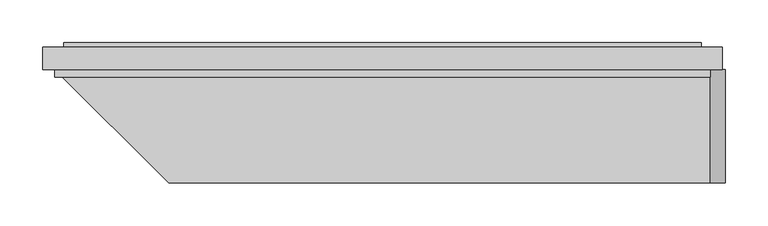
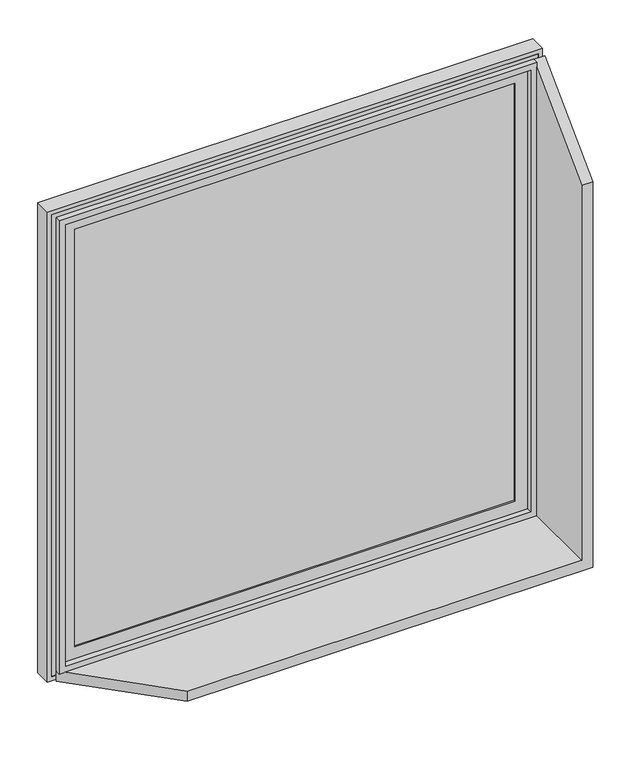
"""IFC4 building model written with IfcOpenShell, lengths in millimetres: plate geometry, SCISSOR PANEL : SCISSOR PANEL."""

from ifc_helpers import new_model, si_unit, frame, origin, place, context, project, spatial, polyline, outline, extrude, faceted_brep, source, transform, mapped, element, save


def plate_9551265c(model_context):
    return source(origin(), model_context, "Body", "SolidModel", [
        faceted_brep([(-381.4048282, 132.5, 17.5), (381.4048282, 132.5, 17.5), (381.4048282, 132.5, 782.5), (398.9048282, 132.5, 782.5), (398.9048282, 132.5, 0.0), (-381.4048282, 132.5, 0.0), (381.4048282, 0.0, 17.5), (381.4048282, 0.0, 650.0), (398.9048282, 0.0, 650.0), (-248.9048282, 0.0, 0.0), (-248.9048282, 0.0, 17.5), (398.9048282, 0.0, 0.0)], [[[0, 1, 2, 3, 4, 5]], [[2, 1, 6, 7]], [[7, 8, 3, 2]], [[9, 10, 0, 5]], [[11, 8, 7, 6, 10, 9]], [[4, 11, 9, 5]], [[11, 4, 3, 8]], [[1, 0, 10, 6]]]),
        extrude(outline(polyline([(-368.4048282, 160.5), (368.4048282, 160.5), (368.4048282, 135.5), (-368.4048282, 135.5), (-368.4048282, 160.5)])), frame((0.0, 0.0, 30.5), z_axis=(0.0, 0.0, 1.0), x_axis=(1.0, 0.0, 0.0)), (0.0, 0.0, 1.0), 739.0),
        faceted_brep([(-351.4048282, 135.5, 752.5), (-351.4048282, 132.5, 752.5), (-351.4048282, 132.5, 47.5), (-351.4048282, 135.5, 47.5), (-368.4048282, 160.5, 769.5), (-368.4048282, 135.5, 769.5), (-368.4048282, 135.5, 30.5), (-368.4048282, 160.5, 30.5), (-351.4048282, 163.5, 752.5), (-351.4048282, 160.5, 752.5), (-351.4048282, 160.5, 47.5), (-351.4048282, 163.5, 47.5), (-371.4048282, 132.5, 772.5), (-371.4048282, 163.5, 772.5), (-371.4048282, 163.5, 27.5), (-371.4048282, 132.5, 27.5), (351.4048282, 132.5, 47.5), (351.4048282, 135.5, 47.5), (368.4048282, 135.5, 30.5), (368.4048282, 160.5, 30.5), (351.4048282, 160.5, 47.5), (351.4048282, 163.5, 47.5), (371.4048282, 163.5, 27.5), (371.4048282, 132.5, 27.5), (351.4048282, 132.5, 752.5), (351.4048282, 135.5, 752.5), (368.4048282, 135.5, 769.5), (368.4048282, 160.5, 769.5), (351.4048282, 160.5, 752.5), (351.4048282, 163.5, 752.5), (371.4048282, 163.5, 772.5), (371.4048282, 132.5, 772.5)], [[[0, 1, 2, 3]], [[4, 5, 6, 7]], [[8, 9, 10, 11]], [[12, 13, 14, 15]], [[3, 2, 16, 17]], [[7, 6, 18, 19]], [[11, 10, 20, 21]], [[15, 14, 22, 23]], [[17, 16, 24, 25]], [[19, 18, 26, 27]], [[21, 20, 28, 29]], [[23, 22, 30, 31]], [[15, 23, 31, 12], [1, 24, 16, 2]], [[25, 24, 1, 0]], [[5, 26, 18, 6], [3, 17, 25, 0]], [[27, 26, 5, 4]], [[7, 19, 27, 4], [9, 28, 20, 10]], [[29, 28, 9, 8]], [[13, 30, 22, 14], [11, 21, 29, 8]], [[31, 30, 13, 12]]]),
        faceted_brep([(-395.4048282, 132.5, 796.5), (-395.4048282, 158.75, 796.5), (-395.4048282, 158.75, 3.5), (-395.4048282, 132.5, 3.5), (-388.4048282, 150.0, 789.5), (-388.4048282, 132.5, 789.5), (-388.4048282, 132.5, 10.5), (-388.4048282, 150.0, 10.5), (-381.4048282, 123.75, 782.5), (-381.4048282, 150.0, 782.5), (-381.4048282, 150.0, 17.5), (-381.4048282, 123.75, 17.5), (-371.4048282, 158.75, 772.5), (-371.4048282, 123.75, 772.5), (-371.4048282, 123.75, 27.5), (-371.4048282, 158.75, 27.5), (395.4048282, 158.75, 3.5), (395.4048282, 132.5, 3.5), (388.4048282, 132.5, 10.5), (388.4048282, 150.0, 10.5), (381.4048282, 150.0, 17.5), (381.4048282, 123.75, 17.5), (371.4048282, 123.75, 27.5), (371.4048282, 158.75, 27.5), (395.4048282, 158.75, 796.5), (395.4048282, 132.5, 796.5), (388.4048282, 132.5, 789.5), (388.4048282, 150.0, 789.5), (381.4048282, 150.0, 782.5), (381.4048282, 123.75, 782.5), (371.4048282, 123.75, 772.5), (371.4048282, 158.75, 772.5)], [[[0, 1, 2, 3]], [[4, 5, 6, 7]], [[8, 9, 10, 11]], [[12, 13, 14, 15]], [[3, 2, 16, 17]], [[7, 6, 18, 19]], [[11, 10, 20, 21]], [[15, 14, 22, 23]], [[17, 16, 24, 25]], [[19, 18, 26, 27]], [[21, 20, 28, 29]], [[23, 22, 30, 31]], [[25, 24, 1, 0]], [[3, 17, 25, 0], [5, 26, 18, 6]], [[27, 26, 5, 4]], [[7, 19, 27, 4], [9, 28, 20, 10]], [[29, 28, 9, 8]], [[11, 21, 29, 8], [13, 30, 22, 14]], [[31, 30, 13, 12]], [[1, 24, 16, 2], [15, 23, 31, 12]]]),
        extrude(outline(polyline([(789.5, -388.4048282), (10.5, -388.4048282), (10.5, 388.4048282), (789.5, 388.4048282), (789.5, -388.4048282)]), holes=[polyline([(782.5, -381.4048282), (782.5, 381.4048282), (17.5, 381.4048282), (17.5, -381.4048282), (782.5, -381.4048282)])]), frame((0.0, 132.5, 0.0), z_axis=(0.0, 1.0, 0.0), x_axis=(0.0, 0.0, 1.0)), (0.0, 0.0, 1.0), 17.5),
    ])


if __name__ == "__main__":
    model = new_model("IFC4")
    model_context = context("Model", 3, world=origin())
    ifc_project = project(units=[si_unit("LENGTHUNIT", "METRE", prefix="MILLI")], contexts=[model_context])
    site = spatial("IfcSite", under=ifc_project)
    building = spatial("IfcBuilding", under=site)
    placement = place(None, origin())
    plate_shape = plate_9551265c(model_context)
    element("IfcPlate", 1, ObjectType="SCISSOR PANEL : SCISSOR PANEL", at=placement, inside=building, context=model_context, shape_type="MappedRepresentation", body=[
        mapped(plate_shape, transform((0.0, 0.0, 0.0), x_axis=(1.0, 0.0, 0.0), y_axis=(0.0, 1.0, 0.0), z_axis=(0.0, 0.0, 1.0))),
    ])
    save(model, "model.ifc")
